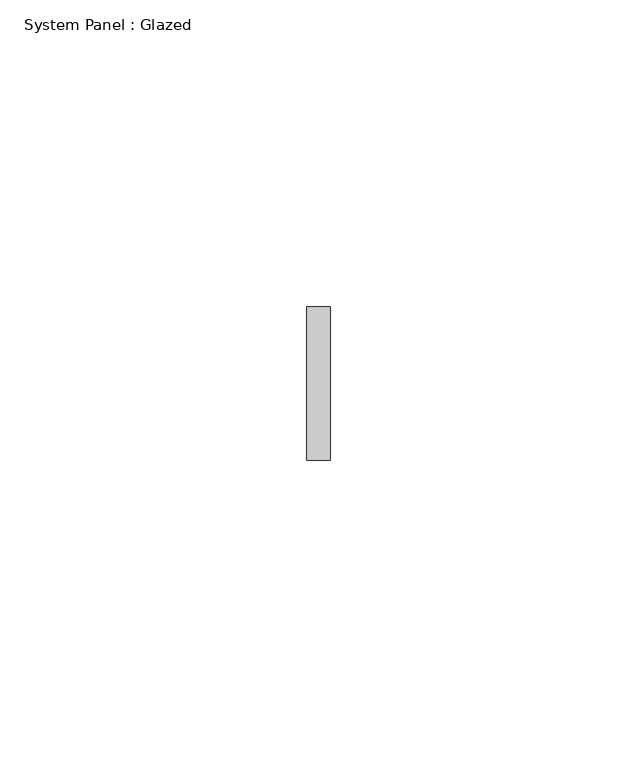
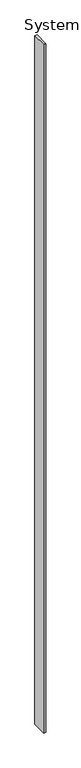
"""IFC4 building model written with IfcOpenShell, lengths in millimetres: plate geometry, System Panel : Glazed."""

from ifc_helpers import new_model, si_unit, origin, origin_with_axes, place, context, project, spatial, polyline, outline, extrude, source, transform, mapped, element, save


def system_panel_glazed_796e0f42(model_context):
    return source(origin(), model_context, "Body", "SweptSolid", [
        extrude(outline(polyline([(1.9081169, -12.5), (-1.9081169, -12.5), (-1.9081169, 12.5), (1.9081169, 12.5), (1.9081169, -12.5)])), origin_with_axes(), (0.0, 0.0, 1.0), 1207.5841161),
    ])


if __name__ == "__main__":
    model = new_model("IFC4")
    model_context = context("Model", 3, world=origin())
    ifc_project = project(units=[si_unit("LENGTHUNIT", "METRE", prefix="MILLI")], contexts=[model_context])
    site = spatial("IfcSite", under=ifc_project)
    building = spatial("IfcBuilding", under=site)
    placement = place(None, origin())
    system_panel_glazed_shape = system_panel_glazed_796e0f42(model_context)
    element("IfcPlate", 1, ObjectType="System Panel : Glazed", at=placement, inside=building, context=model_context, shape_type="MappedRepresentation", body=[
        mapped(system_panel_glazed_shape, transform((0.0, 0.0, 0.0), x_axis=(1.0, 0.0, 0.0), y_axis=(0.0, 1.0, 0.0), z_axis=(0.0, 0.0, 1.0))),
    ])
    save(model, "model.ifc")
